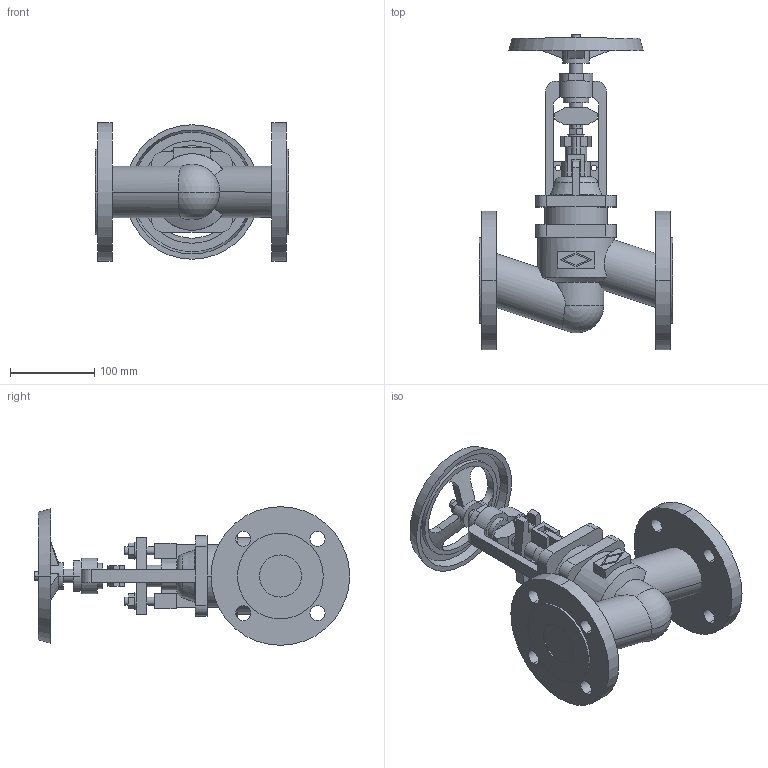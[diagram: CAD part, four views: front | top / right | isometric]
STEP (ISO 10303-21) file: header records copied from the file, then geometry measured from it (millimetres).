
FILE_DESCRIPTION(('OneSpaceDesigner STEP Export'),'2;1');
FILE_NAME('c000003762.stp','2009-06-16T11:00:58',(''),(''),'OneSpace Designer STEP processor for AP214 (Solid Model)','OneSpace Modeling 15.50B 03-Nov-2007 (C) CoCreate Software GmbH','');
FILE_SCHEMA(('AUTOMOTIVE_DESIGN { 1 0 10303 214 1 1 1 1 }'));
Length unit declared in the file: millimetre
Products named in the file (1): 1
Bounding box: 230 x 375.4 x 165 mm (x, y, z)
Volume: 2348798.3 mm3; surface area: 284041.1 mm2
Topology: 1 solids, 1 shells, 289 faces, 757 edges, 496 vertices
Faces by surface type: plane 148, cylinder 107, cone 24, torus 8, sphere 2
Entity records: 11380 total; most frequent: CARTESIAN_POINT 2323, ORIENTED_EDGE 1510, DIRECTION 1243, EDGE_CURVE 755, VERTEX_POINT 496, VECTOR 423, LINE 423, AXIS2_PLACEMENT_3D 410
